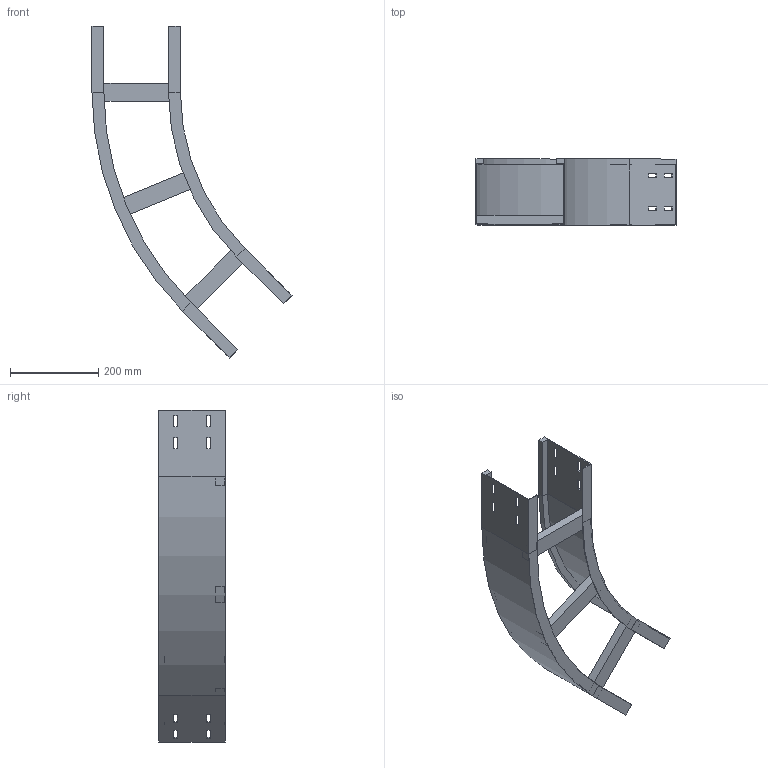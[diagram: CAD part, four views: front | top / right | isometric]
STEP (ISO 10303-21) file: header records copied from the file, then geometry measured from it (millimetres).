
FILE_DESCRIPTION (( 'STEP AP214' ), '1' );
FILE_NAME ('11J5F200.step', '2025-02-21T16:24:02', ( '' ), ( '' ), 'SwSTEP 2.0', 'SolidWorks 2023', '' );
FILE_SCHEMA (( 'AUTOMOTIVE_DESIGN' ));
Length unit declared in the file: millimetre
Products named in the file (4): TRAVERSINO_200; 11J5F200; LONGH.INTERNO 45°_H150_R500; LONGH.ESTERNO 45°_H150_R500+200
Assembly tree (5 placements, depth 2):
  11J5F200
    LONGH.INTERNO 45°_H150_R500
    LONGH.ESTERNO 45°_H150_R500+200
    TRAVERSINO_200  x3
Bounding box: 452.51 x 150 x 751.04 mm (x, y, z)
Volume: 1305103 mm3; surface area: 668548.4 mm2
Topology: 5 solids, 5 shells, 134 faces, 340 edges, 216 vertices
Faces by surface type: plane 126, cylinder 8
Entity records: 3821 total; most frequent: CARTESIAN_POINT 646, ORIENTED_EDGE 632, DIRECTION 592, EDGE_CURVE 316, LINE 300, VECTOR 300, VERTEX_POINT 200, EDGE_LOOP 154
